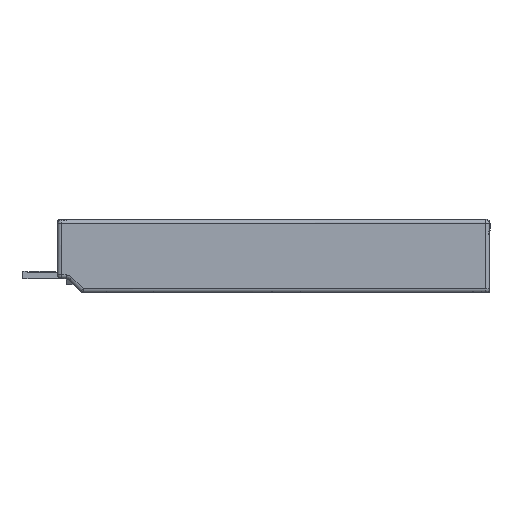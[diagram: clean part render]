
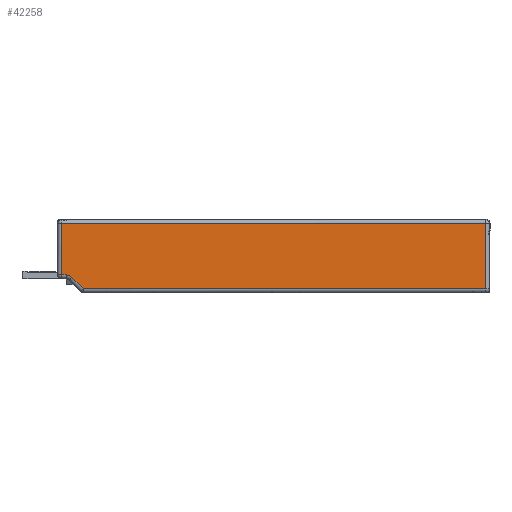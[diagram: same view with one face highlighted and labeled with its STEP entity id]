
A CAD part, left-side view. The second image highlights one B-rep face of the part: STEP entity #42258.
In plain terms, the highlighted planar face has unit normal (-1, 0, 0).
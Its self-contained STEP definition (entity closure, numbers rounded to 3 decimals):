
#5420 = AXIS2_PLACEMENT_3D ( 'NONE', #6365, #6366, #6367 ) ;
#6354 = FACE_OUTER_BOUND ( 'NONE', #14328, .T. ) ;
#6355 = PLANE ( 'NONE',  #5420 ) ;
#6365 = CARTESIAN_POINT ( 'NONE',  ( -266.739, 0., -2. ) ) ;
#6366 = DIRECTION ( 'NONE',  ( -1., 0., 0. ) ) ;
#6367 = DIRECTION ( 'NONE',  ( 0., -1., 0. ) ) ;
#7802 = VECTOR ( 'NONE', #8970, 1000. ) ;
#7820 = VECTOR ( 'NONE', #9026, 1000. ) ;
#7834 = VECTOR ( 'NONE', #9085, 1000. ) ;
#7887 = VECTOR ( 'NONE', #9240, 1000. ) ;
#8027 = VECTOR ( 'NONE', #9732, 1000. ) ;
#8048 = CIRCLE ( 'NONE', #8049, 2.009 ) ;
#8049 = AXIS2_PLACEMENT_3D ( 'NONE', #9815, #9816, #9817 ) ;
#8144 = VECTOR ( 'NONE', #10137, 1000. ) ;
#8959 = LINE ( 'NONE', #8968, #7802 ) ;
#8968 = CARTESIAN_POINT ( 'NONE',  ( -266.739, 0., 15.591 ) ) ;
#8970 = DIRECTION ( 'NONE',  ( 0., 1., 0. ) ) ;
#9024 = LINE ( 'NONE', #9025, #7820 ) ;
#9025 = CARTESIAN_POINT ( 'NONE',  ( -266.739, -2.257, 2.509 ) ) ;
#9026 = DIRECTION ( 'NONE',  ( 0., -1., 0. ) ) ;
#9068 = LINE ( 'NONE', #9084, #7834 ) ;
#9084 = CARTESIAN_POINT ( 'NONE',  ( -266.739, -1.009, -2. ) ) ;
#9085 = DIRECTION ( 'NONE',  ( 0., 0., -1. ) ) ;
#9238 = LINE ( 'NONE', #9239, #7887 ) ;
#9239 = CARTESIAN_POINT ( 'NONE',  ( -266.739, -108.991, -2. ) ) ;
#9240 = DIRECTION ( 'NONE',  ( 0., 0., 1. ) ) ;
#9730 = LINE ( 'NONE', #9731, #8027 ) ;
#9731 = CARTESIAN_POINT ( 'NONE',  ( -266.739, -5.888, -0.29 ) ) ;
#9732 = DIRECTION ( 'NONE',  ( 0., -0.707, -0.707 ) ) ;
#9815 = CARTESIAN_POINT ( 'NONE',  ( -266.739, -2.257, 0.5 ) ) ;
#9816 = DIRECTION ( 'NONE',  ( 1., 0., 0. ) ) ;
#9817 = DIRECTION ( 'NONE',  ( 0., -1., 0. ) ) ;
#10135 = LINE ( 'NONE', #10136, #8144 ) ;
#10136 = CARTESIAN_POINT ( 'NONE',  ( -266.739, 0., -0.991 ) ) ;
#10137 = DIRECTION ( 'NONE',  ( 0., -1., 0. ) ) ;
#14328 = EDGE_LOOP ( 'NONE', ( #38966, #38968, #38970, #38972, #38974, #38976, #38980 ) ) ;
#38966 = ORIENTED_EDGE ( 'NONE', *, *, #42673, .T. ) ;
#38968 = ORIENTED_EDGE ( 'NONE', *, *, #42647, .T. ) ;
#38970 = ORIENTED_EDGE ( 'NONE', *, *, #42774, .T. ) ;
#38972 = ORIENTED_EDGE ( 'NONE', *, *, #42492, .T. ) ;
#38974 = ORIENTED_EDGE ( 'NONE', *, *, #42405, .T. ) ;
#38976 = ORIENTED_EDGE ( 'NONE', *, *, #42439, .T. ) ;
#38980 = ORIENTED_EDGE ( 'NONE', *, *, #42421, .T. ) ;
#42258 = ADVANCED_FACE ( 'NONE', ( #6354 ), #6355, .T. ) ;
#42405 = EDGE_CURVE ( 'NONE', #53183, #53201, #8959, .T. ) ;
#42421 = EDGE_CURVE ( 'NONE', #53023, #53440, #9024, .T. ) ;
#42439 = EDGE_CURVE ( 'NONE', #53201, #53023, #9068, .T. ) ;
#42492 = EDGE_CURVE ( 'NONE', #53171, #53183, #9238, .T. ) ;
#42647 = EDGE_CURVE ( 'NONE', #52840, #52873, #9730, .T. ) ;
#42673 = EDGE_CURVE ( 'NONE', #53440, #52840, #8048, .T. ) ;
#42774 = EDGE_CURVE ( 'NONE', #52873, #53171, #10135, .T. ) ;
#52840 = VERTEX_POINT ( 'NONE', #57196 ) ;
#52873 = VERTEX_POINT ( 'NONE', #57229 ) ;
#53023 = VERTEX_POINT ( 'NONE', #57379 ) ;
#53171 = VERTEX_POINT ( 'NONE', #57527 ) ;
#53183 = VERTEX_POINT ( 'NONE', #57539 ) ;
#53201 = VERTEX_POINT ( 'NONE', #57557 ) ;
#53440 = VERTEX_POINT ( 'NONE', #57796 ) ;
#57196 = CARTESIAN_POINT ( 'NONE',  ( -266.739, -3.678, 1.92 ) ) ;
#57229 = CARTESIAN_POINT ( 'NONE',  ( -266.739, -6.589, -0.991 ) ) ;
#57379 = CARTESIAN_POINT ( 'NONE',  ( -266.739, -1.009, 2.509 ) ) ;
#57527 = CARTESIAN_POINT ( 'NONE',  ( -266.739, -108.991, -0.991 ) ) ;
#57539 = CARTESIAN_POINT ( 'NONE',  ( -266.739, -108.991, 15.591 ) ) ;
#57557 = CARTESIAN_POINT ( 'NONE',  ( -266.739, -1.009, 15.591 ) ) ;
#57796 = CARTESIAN_POINT ( 'NONE',  ( -266.739, -2.257, 2.509 ) ) ;
